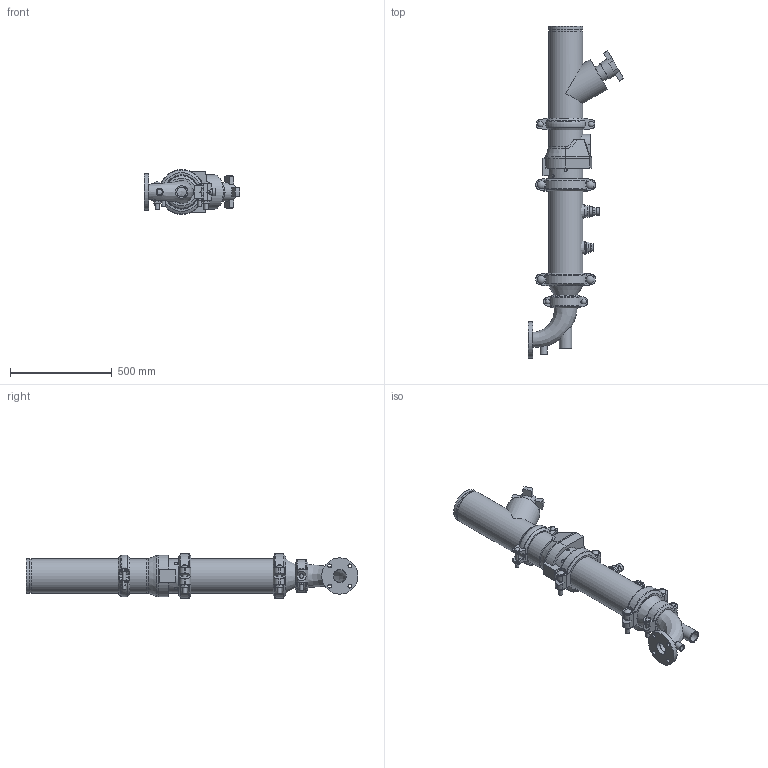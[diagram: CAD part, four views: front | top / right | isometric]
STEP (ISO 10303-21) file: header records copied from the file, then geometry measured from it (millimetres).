
FILE_DESCRIPTION(/* description */ ('VIC DVI PUMP DROP HORZ S/383 (OGSxFLG) (S/924-0.75)','CAx-IF Rec.Pracs.---Representation and Presentation of Product Manufacturing Information (PMI)---4.0---2014-10-13'),/* implementation_level */ '2;1');
FILE_NAME(/* name */ 'C:\Users\Vjadhav\AppData\Roaming\Autodesk\ApplicationPlugins\Victaulic.Temp\A892\Victaulic_IPS_Horizontal DVI_CL 150_Series 383 (OGSxFLG)_924 (0.75)_06.0x02.5 (150x65).stp',/* time_stamp */ '2022-02-28T15:43:56+05:00',/* author */ ('kkamble'),/* organization */ ('Victaulic'),/* preprocessor_version */ 'ST-DEVELOPER v17.2',/* originating_system */ 'Autodesk Inventor 2019',/* authorisation */ '');
FILE_SCHEMA (('AP242_MANAGED_MODEL_BASED_3D_ENGINEERING_MIM_LF { 1 0 10303 442 1 1 4 }'));
Length unit declared in the file: inch
Products named in the file (11): 383-924 (0.75)-06.0x02.5; Pipe-06.0; 177N-06.0; 107N-06.0; 789-06.0; 779-06.0; 924-04.0x0.75; 923-04.0x0.75; R100F-04.0x02.5; 177N-04.0; 050-06.0x04.0
Assembly tree (11 placements, depth 2):
  383-924 (0.75)-06.0x02.5
    177N-06.0  x2
    Pipe-06.0
    107N-06.0
    789-06.0
    779-06.0
    924-04.0x0.75
    923-04.0x0.75
    R100F-04.0x02.5
    177N-04.0
    050-06.0x04.0
Bounding box: 469.9 x 1628.78 x 219.2 mm (x, y, z)
Volume: 14866378.9 mm3; surface area: 2397424.3 mm2
Topology: 11 solids, 11 shells, 663 faces, 1743 edges, 1165 vertices
Faces by surface type: plane 360, cylinder 226, torus 24, cone 23, bspline 22, sphere 8
Full cylindrical faces by diameter (mm): 13.716 x4, 15.875 x4, 17.424 x2, 19.05 x4, 21.209 x4, 23.495 x2, 26.67 x3, 27.381 x2, 34.29 x1, 37.694 x4, 38.608 x1, 45.974 x4, 48.26 x1, 55.626 x2, 60.96 x1, 62.713 x1, 79.375 x1, 88.9 x1, 101.6 x1, 102.26 x2, 110.084 x2, 114.3 x5, 154.051 x4, 155.575 x3, 163.957 x7, 168.275 x19, 177.8 x1
Entity records: 20751 total; most frequent: CARTESIAN_POINT 5218, DIRECTION 3166, ORIENTED_EDGE 2988, EDGE_CURVE 1494, AXIS2_PLACEMENT_3D 1197, VERTEX_POINT 997, LINE 772, VECTOR 772
